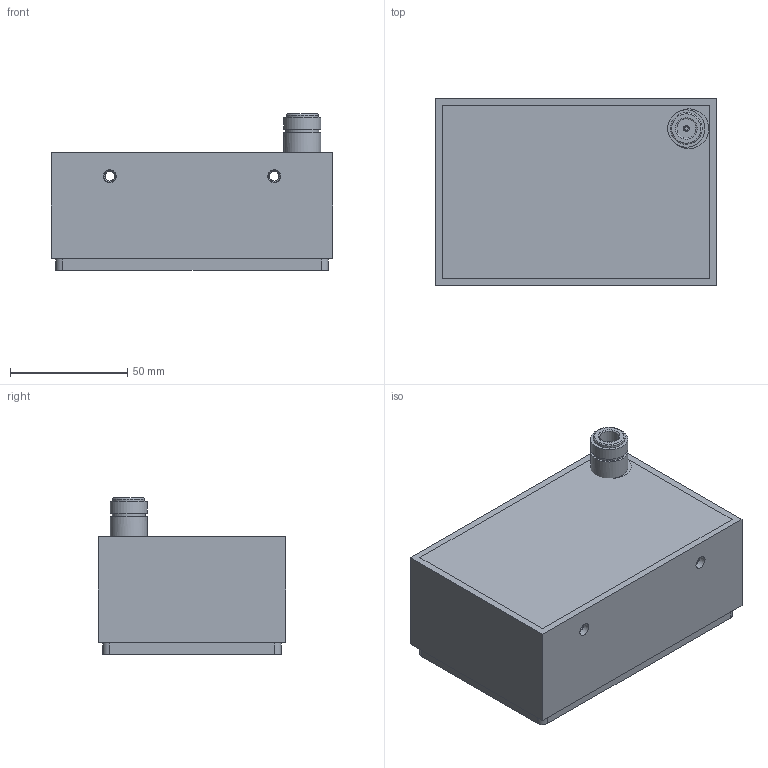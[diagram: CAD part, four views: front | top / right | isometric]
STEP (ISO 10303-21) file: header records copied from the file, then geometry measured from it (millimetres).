
FILE_DESCRIPTION(/* description */ (''),/* implementation_level */ '2;1');
FILE_NAME(/* name */ 'F:\daten\PRODUKTE\TELEMETR\A\Mechanik\CAD\8F\8F\Antenne_8F.stp',/* time_stamp */ '2022-04-22T10:09:11+02:00',/* author */ ('dschaefer'),/* organization */ (''),/* preprocessor_version */ 'ST-DEVELOPER v18.1',/* originating_system */ 'Autodesk Inventor 2021',/* authorisation */ '');
FILE_SCHEMA (('AUTOMOTIVE_DESIGN { 1 0 10303 214 3 1 1 }'));
Length unit declared in the file: millimetre
Products named in the file (6): Antenne_8E; Antennengehaeuse_8c; Verguß; ISO 7046-1 - M2,5 x 3 - 4.8 - H; Bauteil1; N-Buchse_J01021H1082_exzentrisch_bearb
Assembly tree (6 placements, depth 2):
  Antenne_8E
    Antennengehaeuse_8c
    Verguß
    ISO 7046-1 - M2,5 x 3 - 4.8 - H
    Bauteil1  x2
    N-Buchse_J01021H1082_exzentrisch_bearb
Bounding box: 120 x 80 x 66.5 mm (x, y, z)
Volume: 494109.5 mm3; surface area: 86179.5 mm2
Topology: 6 solids, 6 shells, 135 faces, 333 edges, 220 vertices
Faces by surface type: plane 77, cylinder 30, cone 22, torus 6
Full cylindrical faces by diameter (mm): 1.5 x1, 2.224 x1, 2.4 x1, 2.5 x2, 2.9 x1, 3 x1, 4.134 x4, 4.7 x1, 5 x1, 5.5 x6, 8.2 x1, 12 x1, 13.5 x1, 14.2 x1, 15.8 x1, 15.88 x1
Entity records: 3788 total; most frequent: CARTESIAN_POINT 722, DIRECTION 628, ORIENTED_EDGE 564, EDGE_CURVE 282, AXIS2_PLACEMENT_3D 242, VERTEX_POINT 192, EDGE_LOOP 144, LINE 144
